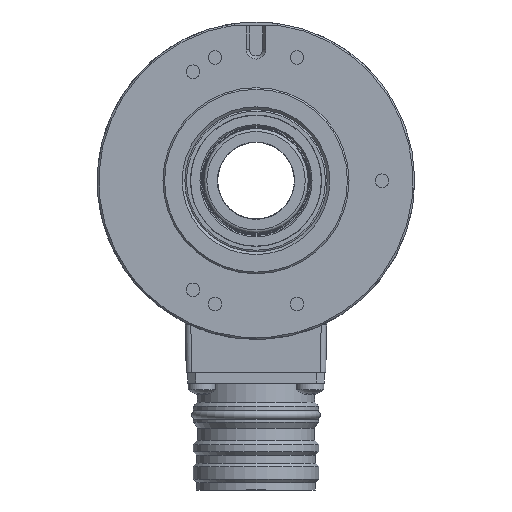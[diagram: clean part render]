
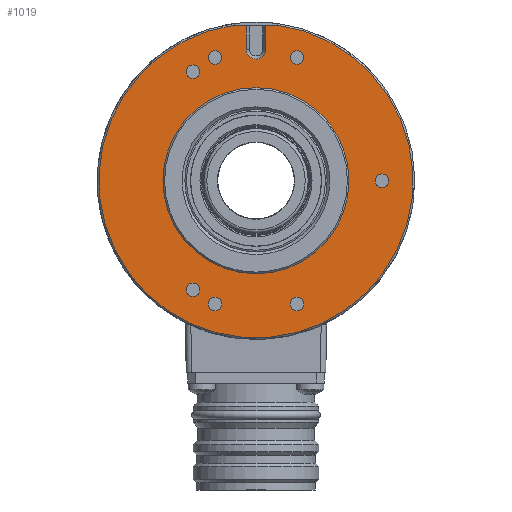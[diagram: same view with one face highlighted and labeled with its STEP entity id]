
A CAD part, left-side view. The second image highlights one B-rep face of the part: STEP entity #1019.
In plain terms, the highlighted planar face has unit normal (-1, 0, 0).
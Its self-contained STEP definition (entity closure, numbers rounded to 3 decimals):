
#1019 = ADVANCED_FACE( '', ( #2700, #2701, #2702, #2703, #2704, #2705, #2706, #2707, #2708 ), #2709, .T. );
#2700 = FACE_OUTER_BOUND( '', #6242, .T. );
#2701 = FACE_BOUND( '', #6243, .T. );
#2702 = FACE_BOUND( '', #6244, .T. );
#2703 = FACE_BOUND( '', #6245, .T. );
#2704 = FACE_BOUND( '', #6246, .T. );
#2705 = FACE_BOUND( '', #6247, .T. );
#2706 = FACE_BOUND( '', #6248, .T. );
#2707 = FACE_BOUND( '', #6249, .T. );
#2708 = FACE_BOUND( '', #6250, .T. );
#2709 = PLANE( '', #6251 );
#6242 = EDGE_LOOP( '', ( #14525, #14526, #14527, #14528, #14529, #14530, #14531, #14532 ) );
#6243 = EDGE_LOOP( '', ( #14533 ) );
#6244 = EDGE_LOOP( '', ( #14534 ) );
#6245 = EDGE_LOOP( '', ( #14535 ) );
#6246 = EDGE_LOOP( '', ( #14536 ) );
#6247 = EDGE_LOOP( '', ( #14537 ) );
#6248 = EDGE_LOOP( '', ( #14538 ) );
#6249 = EDGE_LOOP( '', ( #14539 ) );
#6250 = EDGE_LOOP( '', ( #14540 ) );
#6251 = AXIS2_PLACEMENT_3D( '', #14541, #14542, #14543 );
#14525 = ORIENTED_EDGE( '', *, *, #20356, .T. );
#14526 = ORIENTED_EDGE( '', *, *, #20357, .T. );
#14527 = ORIENTED_EDGE( '', *, *, #20358, .F. );
#14528 = ORIENTED_EDGE( '', *, *, #20041, .F. );
#14529 = ORIENTED_EDGE( '', *, *, #20359, .F. );
#14530 = ORIENTED_EDGE( '', *, *, #20360, .T. );
#14531 = ORIENTED_EDGE( '', *, *, #20361, .T. );
#14532 = ORIENTED_EDGE( '', *, *, #20362, .T. );
#14533 = ORIENTED_EDGE( '', *, *, #19868, .F. );
#14534 = ORIENTED_EDGE( '', *, *, #20363, .T. );
#14535 = ORIENTED_EDGE( '', *, *, #20364, .T. );
#14536 = ORIENTED_EDGE( '', *, *, #20365, .T. );
#14537 = ORIENTED_EDGE( '', *, *, #20366, .T. );
#14538 = ORIENTED_EDGE( '', *, *, #20367, .T. );
#14539 = ORIENTED_EDGE( '', *, *, #20343, .T. );
#14540 = ORIENTED_EDGE( '', *, *, #20368, .T. );
#14541 = CARTESIAN_POINT( '', ( 4.5, -0.002, 25.897 ) );
#14542 = DIRECTION( '', ( -1., 0., 0. ) );
#14543 = DIRECTION( '', ( 0., 1., 0. ) );
#19868 = EDGE_CURVE( '', #22240, #22240, #22241, .T. );
#20041 = EDGE_CURVE( '', #22548, #22544, #22550, .T. );
#20343 = EDGE_CURVE( '', #23055, #23055, #23056, .T. );
#20356 = EDGE_CURVE( '', #23078, #23079, #23080, .T. );
#20357 = EDGE_CURVE( '', #23079, #23081, #23082, .T. );
#20358 = EDGE_CURVE( '', #22544, #23081, #23083, .T. );
#20359 = EDGE_CURVE( '', #23084, #22548, #23085, .T. );
#20360 = EDGE_CURVE( '', #23084, #23086, #23087, .T. );
#20361 = EDGE_CURVE( '', #23086, #23088, #23089, .T. );
#20362 = EDGE_CURVE( '', #23088, #23078, #23090, .T. );
#20363 = EDGE_CURVE( '', #23091, #23091, #23092, .T. );
#20364 = EDGE_CURVE( '', #23093, #23093, #23094, .T. );
#20365 = EDGE_CURVE( '', #23095, #23095, #23096, .T. );
#20366 = EDGE_CURVE( '', #23097, #23097, #23098, .T. );
#20367 = EDGE_CURVE( '', #23099, #23099, #23100, .T. );
#20368 = EDGE_CURVE( '', #23101, #23101, #23102, .T. );
#22240 = VERTEX_POINT( '', #25818 );
#22241 = CIRCLE( '', #25819, 17. );
#22544 = VERTEX_POINT( '', #29435 );
#22548 = VERTEX_POINT( '', #29440 );
#22550 = CIRCLE( '', #29443, 1.78 );
#23055 = VERTEX_POINT( '', #33589 );
#23056 = CIRCLE( '', #33590, 1.23 );
#23078 = VERTEX_POINT( '', #33628 );
#23079 = VERTEX_POINT( '', #33629 );
#23080 = LINE( '', #33630, #33631 );
#23081 = VERTEX_POINT( '', #33632 );
#23082 = LINE( '', #33633, #33634 );
#23083 = LINE( '', #33635, #33636 );
#23084 = VERTEX_POINT( '', #33637 );
#23085 = LINE( '', #33638, #33639 );
#23086 = VERTEX_POINT( '', #33640 );
#23087 = LINE( '', #33641, #33642 );
#23088 = VERTEX_POINT( '', #33643 );
#23089 = LINE( '', #33644, #33645 );
#23090 = CIRCLE( '', #33646, 28.7 );
#23091 = VERTEX_POINT( '', #33647 );
#23092 = CIRCLE( '', #33648, 1.23 );
#23093 = VERTEX_POINT( '', #33649 );
#23094 = CIRCLE( '', #33650, 1.23 );
#23095 = VERTEX_POINT( '', #33651 );
#23096 = CIRCLE( '', #33652, 1.23 );
#23097 = VERTEX_POINT( '', #33653 );
#23098 = CIRCLE( '', #33654, 1.23 );
#23099 = VERTEX_POINT( '', #33655 );
#23100 = CIRCLE( '', #33656, 1.23 );
#23101 = VERTEX_POINT( '', #33657 );
#23102 = CIRCLE( '', #33658, 1.23 );
#25818 = CARTESIAN_POINT( '', ( 4.5, -14.722, 8.5 ) );
#25819 = AXIS2_PLACEMENT_3D( '', #50520, #50521, #50522 );
#29435 = CARTESIAN_POINT( '', ( 4.5, -1.782, 23.997 ) );
#29440 = CARTESIAN_POINT( '', ( 4.5, 1.778, 23.997 ) );
#29443 = AXIS2_PLACEMENT_3D( '', #50704, #50705, #50706 );
#33589 = CARTESIAN_POINT( '', ( 4.5, 6.435, -21.885 ) );
#33590 = AXIS2_PLACEMENT_3D( '', #51017, #51018, #51019 );
#33628 = CARTESIAN_POINT( '', ( 4.5, -4., 28.42 ) );
#33629 = CARTESIAN_POINT( '', ( 4.5, -4., 28.297 ) );
#33630 = CARTESIAN_POINT( '', ( 4.5, -4., 20.25 ) );
#33631 = VECTOR( '', #51027, 1000. );
#33632 = CARTESIAN_POINT( '', ( 4.5, -1.782, 28.297 ) );
#33633 = CARTESIAN_POINT( '', ( 4.5, -4.102, 28.297 ) );
#33634 = VECTOR( '', #51028, 1000. );
#33635 = CARTESIAN_POINT( '', ( 4.5, -1.782, 25.897 ) );
#33636 = VECTOR( '', #51029, 1000. );
#33637 = CARTESIAN_POINT( '', ( 4.5, 1.778, 28.297 ) );
#33638 = CARTESIAN_POINT( '', ( 4.5, 1.778, 25.897 ) );
#33639 = VECTOR( '', #51030, 1000. );
#33640 = CARTESIAN_POINT( '', ( 4.5, 4., 28.297 ) );
#33641 = CARTESIAN_POINT( '', ( 4.5, -4.102, 28.297 ) );
#33642 = VECTOR( '', #51031, 1000. );
#33643 = CARTESIAN_POINT( '', ( 4.5, 4., 28.42 ) );
#33644 = CARTESIAN_POINT( '', ( 4.5, 4., 20.25 ) );
#33645 = VECTOR( '', #51032, 1000. );
#33646 = AXIS2_PLACEMENT_3D( '', #51033, #51034, #51035 );
#33647 = CARTESIAN_POINT( '', ( 4.5, -8.565, 23.115 ) );
#33648 = AXIS2_PLACEMENT_3D( '', #51036, #51037, #51038 );
#33649 = CARTESIAN_POINT( '', ( 4.5, 6.435, 23.115 ) );
#33650 = AXIS2_PLACEMENT_3D( '', #51039, #51040, #51041 );
#33651 = CARTESIAN_POINT( '', ( 4.5, 10.435, 20.534 ) );
#33652 = AXIS2_PLACEMENT_3D( '', #51042, #51043, #51044 );
#33653 = CARTESIAN_POINT( '', ( 4.5, -24.065, 0.615 ) );
#33654 = AXIS2_PLACEMENT_3D( '', #51045, #51046, #51047 );
#33655 = CARTESIAN_POINT( '', ( 4.5, -8.565, -21.885 ) );
#33656 = AXIS2_PLACEMENT_3D( '', #51048, #51049, #51050 );
#33657 = CARTESIAN_POINT( '', ( 4.5, 10.435, -19.304 ) );
#33658 = AXIS2_PLACEMENT_3D( '', #51051, #51052, #51053 );
#50520 = CARTESIAN_POINT( '', ( 4.5, 0., 0. ) );
#50521 = DIRECTION( '', ( -1., 0., 0. ) );
#50522 = DIRECTION( '', ( 0., -0.866, 0.5 ) );
#50704 = CARTESIAN_POINT( '', ( 4.5, -0.002, 23.997 ) );
#50705 = DIRECTION( '', ( -1., 0., 0. ) );
#50706 = DIRECTION( '', ( 0., 1., 0. ) );
#51017 = CARTESIAN_POINT( '', ( 4.5, 7.5, -22.5 ) );
#51018 = DIRECTION( '', ( 1., 0., 0. ) );
#51019 = DIRECTION( '', ( 0., -0.866, 0.5 ) );
#51027 = DIRECTION( '', ( 0., 0., -1. ) );
#51028 = DIRECTION( '', ( 0., 1., 0. ) );
#51029 = DIRECTION( '', ( 0., 0., 1. ) );
#51030 = DIRECTION( '', ( 0., 0., -1. ) );
#51031 = DIRECTION( '', ( 0., 1., 0. ) );
#51032 = DIRECTION( '', ( 0., 0., 1. ) );
#51033 = CARTESIAN_POINT( '', ( 4.5, 0., 0. ) );
#51034 = DIRECTION( '', ( -1., 0., 0. ) );
#51035 = DIRECTION( '', ( 0., -0.866, 0.5 ) );
#51036 = CARTESIAN_POINT( '', ( 4.5, -7.5, 22.5 ) );
#51037 = DIRECTION( '', ( 1., 0., 0. ) );
#51038 = DIRECTION( '', ( 0., -0.866, 0.5 ) );
#51039 = CARTESIAN_POINT( '', ( 4.5, 7.5, 22.5 ) );
#51040 = DIRECTION( '', ( 1., 0., 0. ) );
#51041 = DIRECTION( '', ( 0., -0.866, 0.5 ) );
#51042 = CARTESIAN_POINT( '', ( 4.5, 11.5, 19.919 ) );
#51043 = DIRECTION( '', ( 1., 0., 0. ) );
#51044 = DIRECTION( '', ( 0., -0.866, 0.5 ) );
#51045 = CARTESIAN_POINT( '', ( 4.5, -23., 0. ) );
#51046 = DIRECTION( '', ( 1., 0., 0. ) );
#51047 = DIRECTION( '', ( 0., -0.866, 0.5 ) );
#51048 = CARTESIAN_POINT( '', ( 4.5, -7.5, -22.5 ) );
#51049 = DIRECTION( '', ( 1., 0., 0. ) );
#51050 = DIRECTION( '', ( 0., -0.866, 0.5 ) );
#51051 = CARTESIAN_POINT( '', ( 4.5, 11.5, -19.919 ) );
#51052 = DIRECTION( '', ( 1., 0., 0. ) );
#51053 = DIRECTION( '', ( 0., -0.866, 0.5 ) );
